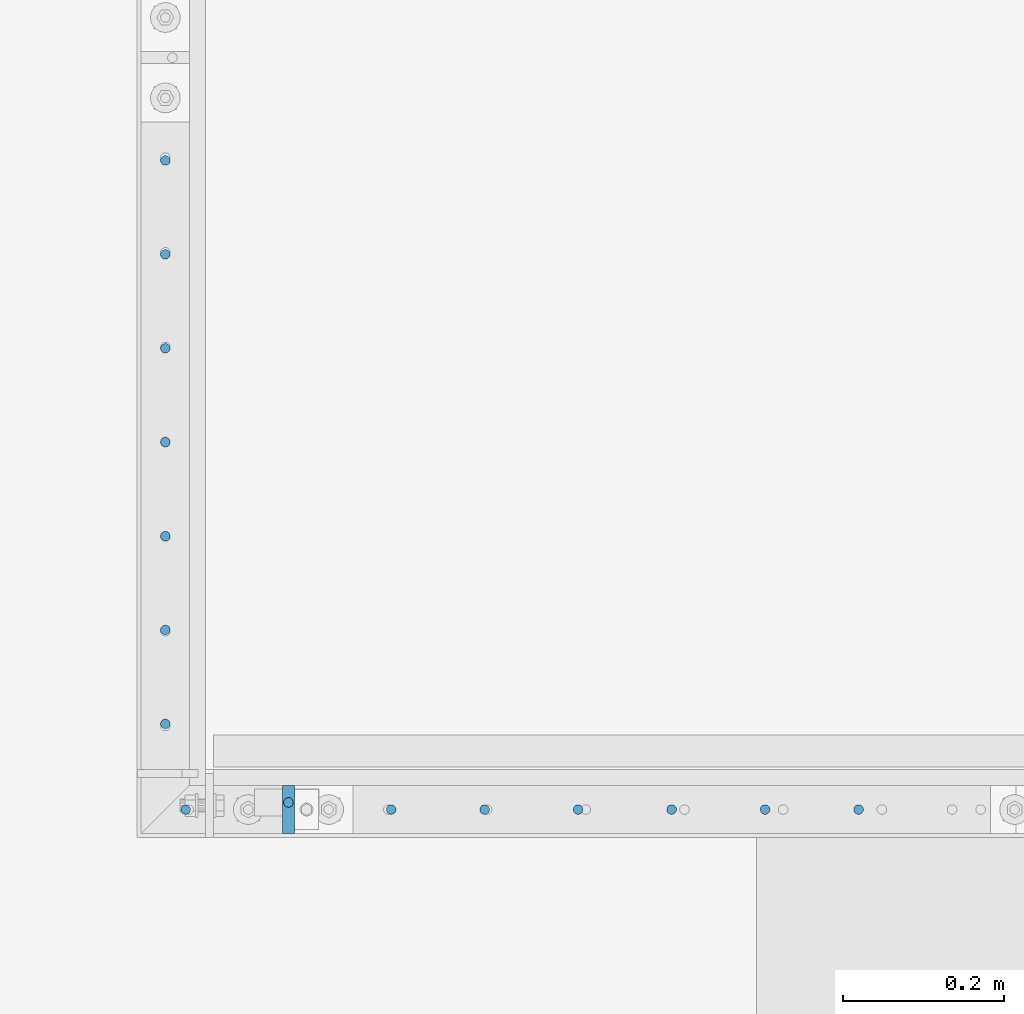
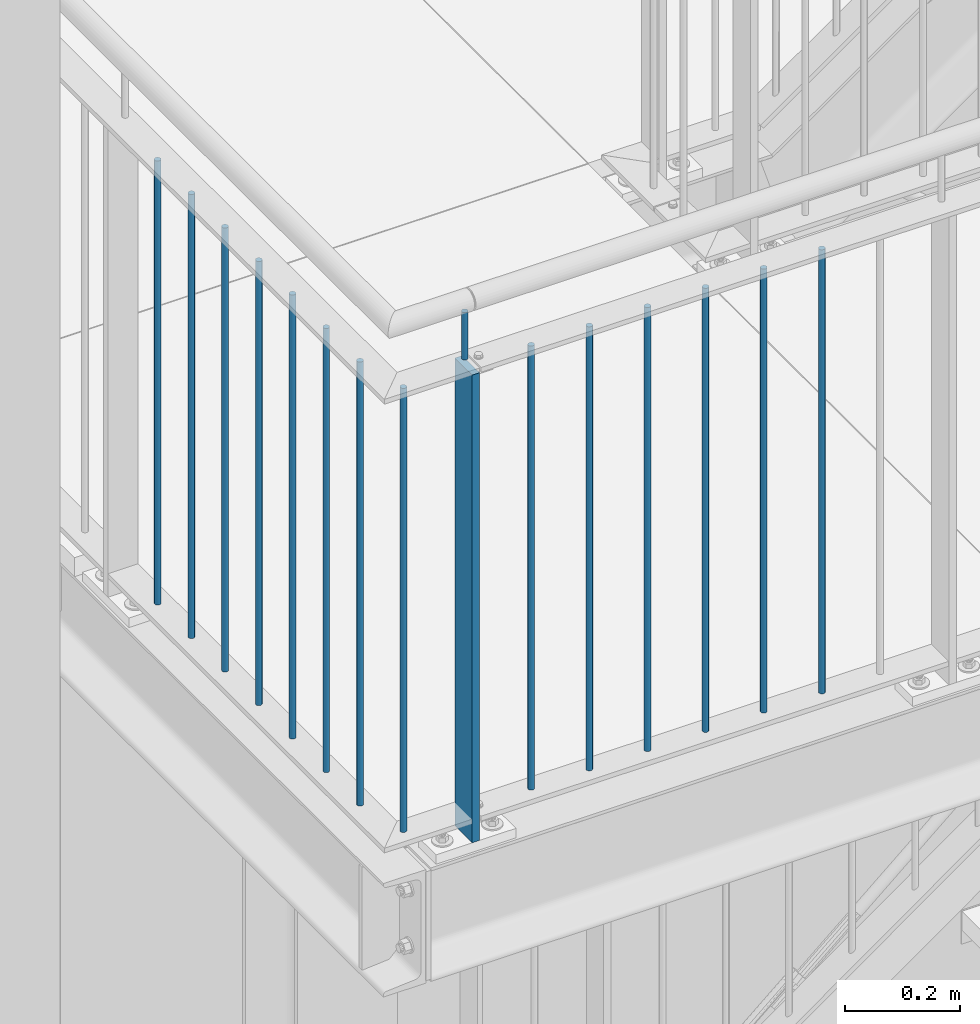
# One storey, part 3 of 821: 16 columns.
"""IFC2X3 building model written with IfcOpenShell, lengths in millimetres."""

from ifc_helpers import new_model, entity, si_unit, converted_unit, frame, origin, origin_with_axes, origin_2d, place, context, project, spatial, rectangle, circle, extrude, clip, halfspace, material, element, save


model = new_model("IFC2X3")

# Units and contexts
model_context = context("Model", 3, precision=1e-09, world=origin_with_axes())
ifc_project = project(units=[si_unit("LENGTHUNIT", "METRE", prefix="MILLI"), si_unit("AREAUNIT", "SQUARE_METRE"), si_unit("VOLUMEUNIT", "CUBIC_METRE"), converted_unit("PLANEANGLEUNIT", "DEGREE", entity("IfcPlaneAngleMeasure", 0.01745329), si_unit("PLANEANGLEUNIT", "RADIAN"), dimensions=[0, 0, 0, 0, 0, 0, 0])], contexts=[model_context])

# Site, building, storey
site_placement = place(None, origin_with_axes())
site = spatial("IfcSite", under=ifc_project, at=site_placement, Name="Cnopf'sche Kinderklinik", CompositionType="ELEMENT")
building_placement = place(site_placement, origin_with_axes())
building = spatial("IfcBuilding", under=site, at=building_placement, Name="Struktur 1", CompositionType="ELEMENT")
storey_placement = place(building_placement, origin_with_axes())
storey = spatial("IfcBuildingStorey", under=building, at=storey_placement, Name="Default Storey", CompositionType="ELEMENT", Elevation=0.0)

# Columns
ifc_material = material(Name="S235JR")
column_1_placement = place(None, frame((3424.788520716, 4526.736971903, 4886.723292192), z_axis=(0.0, 0.0, 1.0), x_axis=(-1.0, 0.0, 0.0)))
element("IfcColumn", 1, at=column_1_placement, inside=storey, material=ifc_material, Name="Railing_Post_Landing#12", ObjectType="Railing_Post_Landing#12", context=model_context, shape_type="Clipping", body=[
    clip(clip(extrude(rectangle(XDim=15.0, YDim=60.0, at=origin_2d()), origin(), (0.0, 0.0, -1.0), 1070.646584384), halfspace(frame((3424.788520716, 4526.736971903, -1019.722292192), z_axis=(0.0, 0.0, 1.0), x_axis=(-1.0, 0.0, 0.0)), True)), halfspace(frame((3424.788520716, 4526.736971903, -30.924292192), z_axis=(0.0, 0.0, -1.0), x_axis=(1.0, 0.0, 0.0)), True)),
])
column_2_placement = place(None, frame((4133.846118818, 4526.736971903, 4869.285281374), z_axis=(0.0, 0.0, 1.0), x_axis=(-1.0, 0.0, 0.0)))
element("IfcColumn", 2, at=column_2_placement, inside=storey, material=ifc_material, Name="Railing_Picket_Landing#78", ObjectType="Railing_Picket_Landing#78", context=model_context, shape_type="Clipping", body=[
    clip(clip(extrude(circle(Radius=6.0, at=origin_2d()), origin(), (0.0, 0.0, -1.0), 965.770562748), halfspace(frame((4133.846118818, 4526.736971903, -13.486281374), z_axis=(0.0, 0.0, -1.0), x_axis=(1.0, 0.0, 0.0)), True)), halfspace(frame((4133.846118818, 4526.736971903, -952.284281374), z_axis=(0.0, 0.0, 1.0), x_axis=(-1.0, 0.0, 0.0)), True)),
])
column_3_placement = place(None, frame((4017.586599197, 4526.736971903, 4869.285281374), z_axis=(0.0, 0.0, 1.0), x_axis=(-1.0, 0.0, 0.0)))
element("IfcColumn", 3, at=column_3_placement, inside=storey, material=ifc_material, Name="Railing_Picket_Landing#79", ObjectType="Railing_Picket_Landing#79", context=model_context, shape_type="Clipping", body=[
    clip(clip(extrude(circle(Radius=6.0, at=origin_2d()), origin(), (0.0, 0.0, -1.0), 965.770562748), halfspace(frame((4017.586599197, 4526.736971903, -13.486281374), z_axis=(0.0, 0.0, -1.0), x_axis=(1.0, 0.0, 0.0)), True)), halfspace(frame((4017.586599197, 4526.736971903, -952.284281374), z_axis=(0.0, 0.0, 1.0), x_axis=(-1.0, 0.0, 0.0)), True)),
])
column_4_placement = place(None, frame((3901.327079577, 4526.736971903, 4869.285281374), z_axis=(0.0, 0.0, 1.0), x_axis=(-1.0, 0.0, 0.0)))
element("IfcColumn", 4, at=column_4_placement, inside=storey, material=ifc_material, Name="Railing_Picket_Landing#80", ObjectType="Railing_Picket_Landing#80", context=model_context, shape_type="Clipping", body=[
    clip(clip(extrude(circle(Radius=6.0, at=origin_2d()), origin(), (0.0, 0.0, -1.0), 965.770562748), halfspace(frame((3901.327079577, 4526.736971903, -13.486281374), z_axis=(0.0, 0.0, -1.0), x_axis=(1.0, 0.0, 0.0)), True)), halfspace(frame((3901.327079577, 4526.736971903, -952.284281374), z_axis=(0.0, 0.0, 1.0), x_axis=(-1.0, 0.0, 0.0)), True)),
])
column_5_placement = place(None, frame((3785.067559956, 4526.736971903, 4869.285281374), z_axis=(0.0, 0.0, 1.0), x_axis=(-1.0, 0.0, 0.0)))
element("IfcColumn", 5, at=column_5_placement, inside=storey, material=ifc_material, Name="Railing_Picket_Landing#81", ObjectType="Railing_Picket_Landing#81", context=model_context, shape_type="Clipping", body=[
    clip(clip(extrude(circle(Radius=6.0, at=origin_2d()), origin(), (0.0, 0.0, -1.0), 965.770562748), halfspace(frame((3785.067559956, 4526.736971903, -13.486281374), z_axis=(0.0, 0.0, -1.0), x_axis=(1.0, 0.0, 0.0)), True)), halfspace(frame((3785.067559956, 4526.736971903, -952.284281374), z_axis=(0.0, 0.0, 1.0), x_axis=(-1.0, 0.0, 0.0)), True)),
])
column_6_placement = place(None, frame((3668.808040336, 4526.736971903, 4869.285281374), z_axis=(0.0, 0.0, 1.0), x_axis=(-1.0, 0.0, 0.0)))
element("IfcColumn", 6, at=column_6_placement, inside=storey, material=ifc_material, Name="Railing_Picket_Landing#82", ObjectType="Railing_Picket_Landing#82", context=model_context, shape_type="Clipping", body=[
    clip(clip(extrude(circle(Radius=6.0, at=origin_2d()), origin(), (0.0, 0.0, -1.0), 965.770562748), halfspace(frame((3668.808040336, 4526.736971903, -13.486281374), z_axis=(0.0, 0.0, -1.0), x_axis=(1.0, 0.0, 0.0)), True)), halfspace(frame((3668.808040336, 4526.736971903, -952.284281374), z_axis=(0.0, 0.0, 1.0), x_axis=(-1.0, 0.0, 0.0)), True)),
])
column_7_placement = place(None, frame((3552.548520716, 4526.736971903, 4869.285281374), z_axis=(0.0, 0.0, 1.0), x_axis=(-1.0, 0.0, 0.0)))
element("IfcColumn", 7, at=column_7_placement, inside=storey, material=ifc_material, Name="Railing_Picket_Landing#83", ObjectType="Railing_Picket_Landing#83", context=model_context, shape_type="Clipping", body=[
    clip(clip(extrude(circle(Radius=6.0, at=origin_2d()), origin(), (0.0, 0.0, -1.0), 965.770562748), halfspace(frame((3552.548520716, 4526.736971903, -13.486281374), z_axis=(0.0, 0.0, -1.0), x_axis=(1.0, 0.0, 0.0)), True)), halfspace(frame((3552.548520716, 4526.736971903, -952.284281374), z_axis=(0.0, 0.0, 1.0), x_axis=(-1.0, 0.0, 0.0)), True)),
])
column_8_placement = place(None, frame((3297.028520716, 4526.736971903, 4869.285281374), z_axis=(0.0, 0.0, 1.0), x_axis=(-1.0, 0.0, 0.0)))
element("IfcColumn", 8, at=column_8_placement, inside=storey, material=ifc_material, Name="Railing_Picket_Landing#84", ObjectType="Railing_Picket_Landing#84", context=model_context, shape_type="Clipping", body=[
    clip(clip(extrude(circle(Radius=6.0, at=origin_2d()), origin(), (0.0, 0.0, -1.0), 965.770562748), halfspace(frame((3297.028520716, 4526.736971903, -13.486281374), z_axis=(0.0, 0.0, -1.0), x_axis=(1.0, 0.0, 0.0)), True)), halfspace(frame((3297.028520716, 4526.736971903, -952.284281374), z_axis=(0.0, 0.0, 1.0), x_axis=(-1.0, 0.0, 0.0)), True)),
])
column_9_placement = place(None, frame((3271.713402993, 4633.215728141, 4869.285281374), z_axis=(0.0, 0.0, 1.0), x_axis=(0.0, 1.0, 0.0)))
element("IfcColumn", 9, at=column_9_placement, inside=storey, material=ifc_material, Name="Railing_Picket_Landing#85", ObjectType="Railing_Picket_Landing#85", context=model_context, shape_type="Clipping", body=[
    clip(clip(extrude(circle(Radius=6.0, at=origin_2d()), origin(), (0.0, 0.0, -1.0), 965.770562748), halfspace(frame((-4633.215728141, 3271.713402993, -13.486281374), z_axis=(0.0, 0.0, -1.0), x_axis=(0.0, 1.0, 0.0)), True)), halfspace(frame((-4633.215728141, 3271.713402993, -952.284281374), z_axis=(0.0, 0.0, 1.0), x_axis=(0.0, -1.0, 0.0)), True)),
])
column_10_placement = place(None, frame((3271.713402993, 4750.009602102, 4869.285281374), z_axis=(0.0, 0.0, 1.0), x_axis=(0.0, 1.0, 0.0)))
element("IfcColumn", 10, at=column_10_placement, inside=storey, material=ifc_material, Name="Railing_Picket_Landing#86", ObjectType="Railing_Picket_Landing#86", context=model_context, shape_type="Clipping", body=[
    clip(clip(extrude(circle(Radius=6.0, at=origin_2d()), origin(), (0.0, 0.0, -1.0), 965.770562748), halfspace(frame((-4750.009602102, 3271.713402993, -13.486281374), z_axis=(0.0, 0.0, -1.0), x_axis=(0.0, 1.0, 0.0)), True)), halfspace(frame((-4750.009602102, 3271.713402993, -952.284281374), z_axis=(0.0, 0.0, 1.0), x_axis=(0.0, -1.0, 0.0)), True)),
])
column_11_placement = place(None, frame((3271.713402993, 4866.803476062, 4869.285281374), z_axis=(0.0, 0.0, 1.0), x_axis=(0.0, 1.0, 0.0)))
element("IfcColumn", 11, at=column_11_placement, inside=storey, material=ifc_material, Name="Railing_Picket_Landing#87", ObjectType="Railing_Picket_Landing#87", context=model_context, shape_type="Clipping", body=[
    clip(clip(extrude(circle(Radius=6.0, at=origin_2d()), origin(), (0.0, 0.0, -1.0), 965.770562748), halfspace(frame((-4866.803476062, 3271.713402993, -13.486281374), z_axis=(0.0, 0.0, -1.0), x_axis=(0.0, 1.0, 0.0)), True)), halfspace(frame((-4866.803476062, 3271.713402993, -952.284281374), z_axis=(0.0, 0.0, 1.0), x_axis=(0.0, -1.0, 0.0)), True)),
])
column_12_placement = place(None, frame((3271.713402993, 4983.597350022, 4869.285281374), z_axis=(0.0, 0.0, 1.0), x_axis=(0.0, 1.0, 0.0)))
element("IfcColumn", 12, at=column_12_placement, inside=storey, material=ifc_material, Name="Railing_Picket_Landing#88", ObjectType="Railing_Picket_Landing#88", context=model_context, shape_type="Clipping", body=[
    clip(clip(extrude(circle(Radius=6.0, at=origin_2d()), origin(), (0.0, 0.0, -1.0), 965.770562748), halfspace(frame((-4983.597350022, 3271.713402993, -13.486281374), z_axis=(0.0, 0.0, -1.0), x_axis=(0.0, 1.0, 0.0)), True)), halfspace(frame((-4983.597350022, 3271.713402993, -952.284281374), z_axis=(0.0, 0.0, 1.0), x_axis=(0.0, -1.0, 0.0)), True)),
])
column_13_placement = place(None, frame((3271.713402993, 5100.391223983, 4869.285281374), z_axis=(0.0, 0.0, 1.0), x_axis=(0.0, 1.0, 0.0)))
element("IfcColumn", 13, at=column_13_placement, inside=storey, material=ifc_material, Name="Railing_Picket_Landing#89", ObjectType="Railing_Picket_Landing#89", context=model_context, shape_type="Clipping", body=[
    clip(clip(extrude(circle(Radius=6.0, at=origin_2d()), origin(), (0.0, 0.0, -1.0), 965.770562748), halfspace(frame((-5100.391223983, 3271.713402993, -13.486281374), z_axis=(0.0, 0.0, -1.0), x_axis=(0.0, 1.0, 0.0)), True)), halfspace(frame((-5100.391223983, 3271.713402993, -952.284281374), z_axis=(0.0, 0.0, 1.0), x_axis=(0.0, -1.0, 0.0)), True)),
])
column_14_placement = place(None, frame((3271.713402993, 5217.185097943, 4869.285281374), z_axis=(0.0, 0.0, 1.0), x_axis=(0.0, 1.0, 0.0)))
element("IfcColumn", 14, at=column_14_placement, inside=storey, material=ifc_material, Name="Railing_Picket_Landing#90", ObjectType="Railing_Picket_Landing#90", context=model_context, shape_type="Clipping", body=[
    clip(clip(extrude(circle(Radius=6.0, at=origin_2d()), origin(), (0.0, 0.0, -1.0), 965.770562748), halfspace(frame((-5217.185097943, 3271.713402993, -13.486281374), z_axis=(0.0, 0.0, -1.0), x_axis=(0.0, 1.0, 0.0)), True)), halfspace(frame((-5217.185097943, 3271.713402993, -952.284281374), z_axis=(0.0, 0.0, 1.0), x_axis=(0.0, -1.0, 0.0)), True)),
])
column_15_placement = place(None, frame((3271.713402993, 5333.978971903, 4869.285281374), z_axis=(0.0, 0.0, 1.0), x_axis=(0.0, 1.0, 0.0)))
element("IfcColumn", 15, at=column_15_placement, inside=storey, material=ifc_material, Name="Railing_Picket_Landing#91", ObjectType="Railing_Picket_Landing#91", context=model_context, shape_type="Clipping", body=[
    clip(clip(extrude(circle(Radius=6.0, at=origin_2d()), origin(), (0.0, 0.0, -1.0), 965.770562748), halfspace(frame((-5333.978971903, 3271.713402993, -13.486281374), z_axis=(0.0, 0.0, -1.0), x_axis=(0.0, 1.0, 0.0)), True)), halfspace(frame((-5333.978971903, 3271.713402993, -952.284281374), z_axis=(0.0, 0.0, 1.0), x_axis=(0.0, -1.0, 0.0)), True)),
])
column_16_placement = place(None, frame((3424.788520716, 4535.536971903, 4974.285281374), z_axis=(0.0, 0.0, 1.0), x_axis=(0.0, 1.0, 0.0)))
element("IfcColumn", 16, at=column_16_placement, inside=storey, material=ifc_material, Name="Bar#12", ObjectType="Bar#12", context=model_context, shape_type="Clipping", body=[
    clip(clip(extrude(circle(Radius=6.0, at=origin_2d()), origin(), (0.0, 0.0, -1.0), 116.970562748), halfspace(frame((-4535.536971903, 3424.788520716, -8.486281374), z_axis=(0.0, 0.0, -1.0), x_axis=(0.0, 1.0, 0.0)), True)), halfspace(frame((-4535.536971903, 3424.788520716, -108.484281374), z_axis=(0.0, 0.0, 1.0), x_axis=(0.0, -1.0, 0.0)), True)),
])

save(model, "model.ifc")
